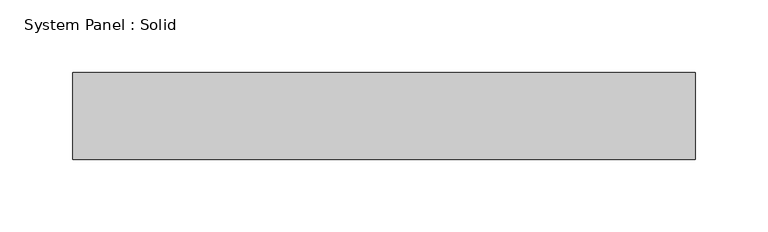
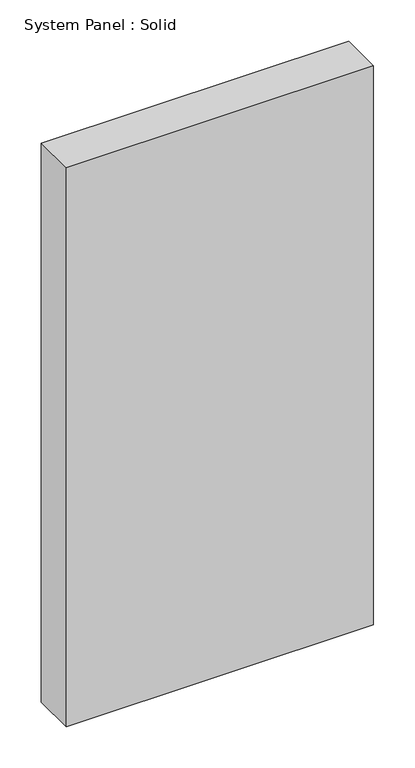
"""IFC4 building model written with IfcOpenShell, lengths in millimetres: plate geometry, System Panel : Solid."""

from ifc_helpers import new_model, si_unit, origin, origin_with_axes, place, context, project, spatial, polyline, outline, extrude, source, transform, mapped, element, save


def system_panel_solid_505ec3b0(model_context):
    return source(origin(), model_context, "Body", "SweptSolid", [
        extrude(outline(polyline([(214.5000001, -49.5), (-214.5000001, -49.5), (-214.5000001, 10.5), (214.5000001, 10.5), (214.5000001, -49.5)])), origin_with_axes(), (0.0, 0.0, 1.0), 825.0),
    ])


if __name__ == "__main__":
    model = new_model("IFC4")
    model_context = context("Model", 3, world=origin())
    ifc_project = project(units=[si_unit("LENGTHUNIT", "METRE", prefix="MILLI")], contexts=[model_context])
    site = spatial("IfcSite", under=ifc_project)
    building = spatial("IfcBuilding", under=site)
    placement = place(None, origin())
    system_panel_solid_shape = system_panel_solid_505ec3b0(model_context)
    element("IfcPlate", 1, ObjectType="System Panel : Solid", at=placement, inside=building, context=model_context, shape_type="MappedRepresentation", body=[
        mapped(system_panel_solid_shape, transform((0.0, 0.0, 0.0), x_axis=(1.0, 0.0, 0.0), y_axis=(0.0, 1.0, 0.0), z_axis=(0.0, 0.0, 1.0))),
    ])
    save(model, "model.ifc")
